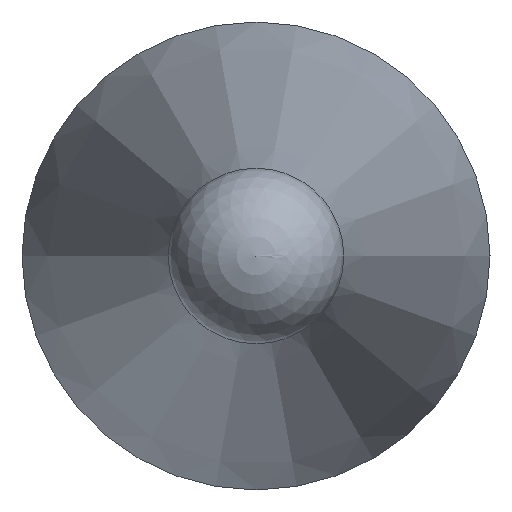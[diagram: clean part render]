
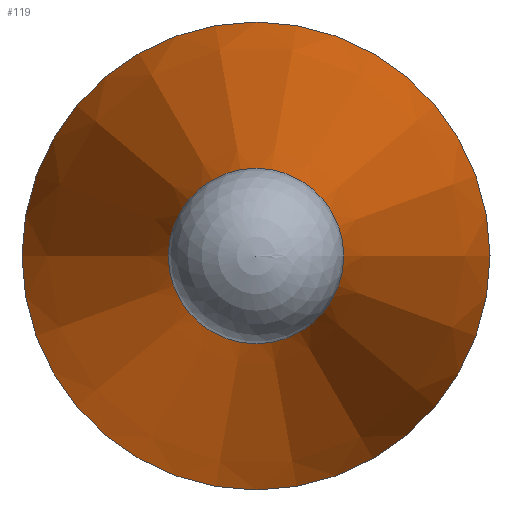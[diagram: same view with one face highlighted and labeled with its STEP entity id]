
A CAD part, left-side view. The second image highlights one B-rep face of the part: STEP entity #119.
In plain terms, the highlighted conical face has half-angle 11 degrees and reference radius 2 mm.
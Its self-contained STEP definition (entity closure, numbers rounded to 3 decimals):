
#93=CONICAL_SURFACE('',#191,2.,11.);
#107=FACE_BOUND('',#137,.T.);
#108=FACE_BOUND('',#138,.T.);
#119=ADVANCED_FACE('',(#107,#108),#93,.T.);
#137=EDGE_LOOP('',(#151));
#138=EDGE_LOOP('',(#152));
#151=ORIENTED_EDGE('',*,*,#168,.T.);
#152=ORIENTED_EDGE('',*,*,#169,.F.);
#161=VERTEX_POINT('',#244);
#162=VERTEX_POINT('',#247);
#168=EDGE_CURVE('',#161,#161,#175,.T.);
#169=EDGE_CURVE('',#162,#162,#176,.T.);
#175=CIRCLE('',#188,0.71);
#176=CIRCLE('',#190,2.);
#188=AXIS2_PLACEMENT_3D('',#243,#215,#216);
#190=AXIS2_PLACEMENT_3D('',#246,#219,#220);
#191=AXIS2_PLACEMENT_3D('',#248,#221,#222);
#215=DIRECTION('',(1.,0.,0.));
#216=DIRECTION('',(0.,1.,0.));
#219=DIRECTION('',(1.,0.,0.));
#220=DIRECTION('',(0.,1.,0.));
#221=DIRECTION('',(1.,0.,0.));
#222=DIRECTION('',(0.,1.,0.));
#243=CARTESIAN_POINT('',(7883.876,6110.222,0.));
#244=CARTESIAN_POINT('',(7883.876,6110.932,0.));
#246=CARTESIAN_POINT('',(7890.512,6110.222,0.));
#247=CARTESIAN_POINT('',(7890.512,6112.222,0.));
#248=CARTESIAN_POINT('',(7890.512,6110.222,0.));
